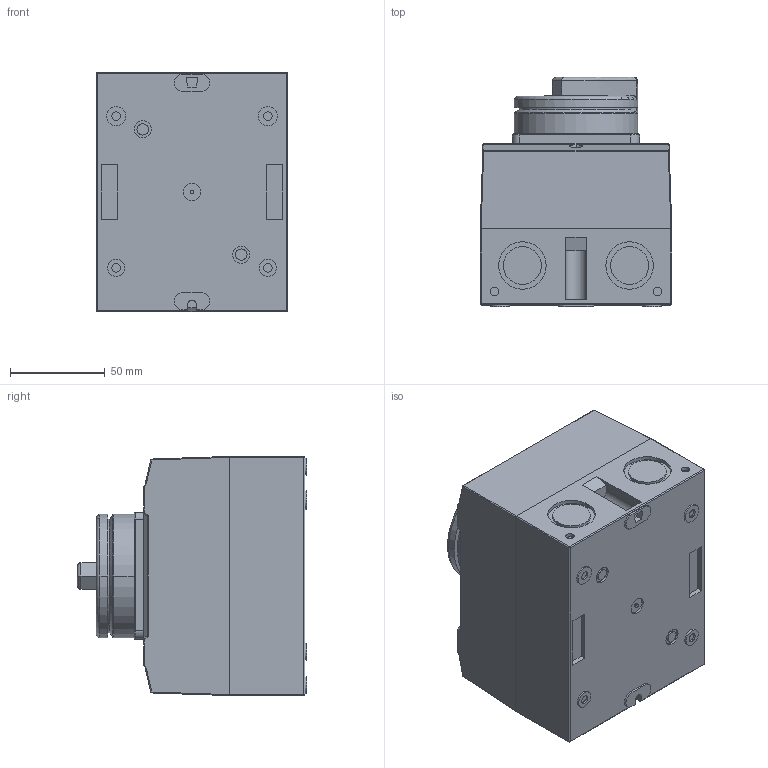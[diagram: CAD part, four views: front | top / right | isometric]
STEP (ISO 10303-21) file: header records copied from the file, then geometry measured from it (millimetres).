
FILE_DESCRIPTION((''),'2;1');
FILE_NAME('32_ASM','2022-10-13T',('xiaokai.shi'),(''),'PRO/ENGINEER BY PARAMETRIC TECHNOLOGY CORPORATION, 2015440','PRO/ENGINEER BY PARAMETRIC TECHNOLOGY CORPORATION, 2015440','');
FILE_SCHEMA(('CONFIG_CONTROL_DESIGN'));
Length unit declared in the file: millimetre
Products named in the file (3): CDF1_32; XUANNIU; 32_ASM
Assembly tree (2 placements, depth 2):
  32_ASM
    CDF1_32
    XUANNIU
Bounding box: 101 x 121 x 126 mm (x, y, z)
Volume: 1113766.2 mm3; surface area: 85264.5 mm2
Topology: 3 solids, 3 shells, 250 faces, 573 edges, 362 vertices
Faces by surface type: cylinder 117, plane 99, bspline 12, torus 9, sphere 8, extrusion 4, cone 1
Entity records: 8614 total; most frequent: CARTESIAN_POINT 2866, DIRECTION 1202, ORIENTED_EDGE 1146, EDGE_CURVE 573, AXIS2_PLACEMENT_3D 454, VERTEX_POINT 362, VECTOR 294, LINE 290
